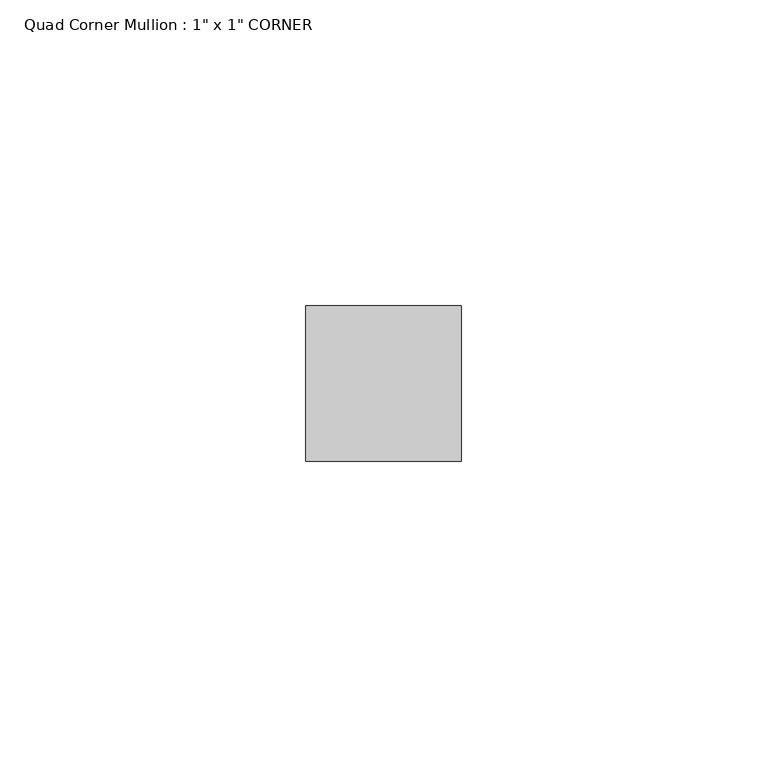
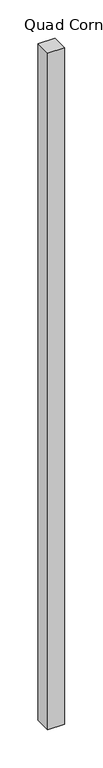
"""IFC4 building model written with IfcOpenShell, lengths in millimetres: member geometry."""

from ifc_helpers import new_model, si_unit, frame, origin, place, context, project, spatial, polyline, outline, extrude, source, transform, mapped, element, save


def member_572decc9(model_context):
    return source(origin(), model_context, "Body", "SweptSolid", [
        extrude(outline(polyline([(0.0, 25.4), (0.0, 0.0), (-25.4, 0.0), (-25.4, 25.4), (0.0, 25.4)])), frame((0.0, 0.0, -1079.5000024), z_axis=(0.0, 0.0, 1.0), x_axis=(1.0, 0.0, 0.0)), (0.0, 0.0, 1.0), 1079.5000024),
    ])


if __name__ == "__main__":
    model = new_model("IFC4")
    model_context = context("Model", 3, world=origin())
    ifc_project = project(units=[si_unit("LENGTHUNIT", "METRE", prefix="MILLI")], contexts=[model_context])
    site = spatial("IfcSite", under=ifc_project)
    building = spatial("IfcBuilding", under=site)
    placement = place(None, origin())
    member_shape = member_572decc9(model_context)
    element("IfcMember", 1, ObjectType="Quad Corner Mullion : 1\" x 1\" CORNER", at=placement, inside=building, context=model_context, shape_type="MappedRepresentation", body=[
        mapped(member_shape, transform((0.0, 0.0, 0.0), x_axis=(1.0, 0.0, 0.0), y_axis=(0.0, 1.0, 0.0), z_axis=(0.0, 0.0, 1.0))),
    ])
    save(model, "model.ifc")
